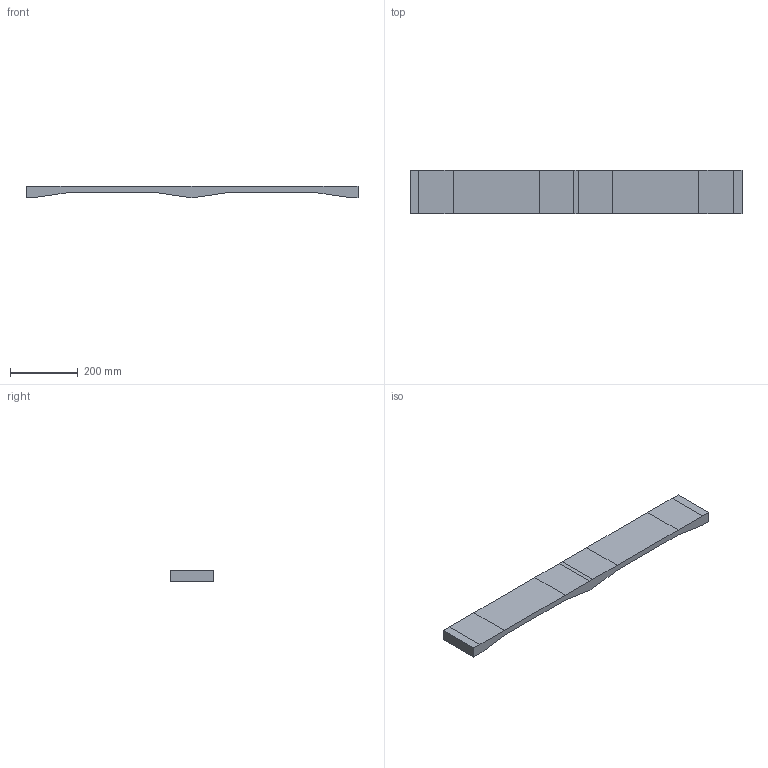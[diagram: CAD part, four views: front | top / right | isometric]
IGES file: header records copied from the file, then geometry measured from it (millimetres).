
Start section: /COM,ANSYS RELEASE 11.0    UP20070125       18:35:15    01/03/2009 /NOPR /PREP7 /TITLE, DOF,UX,UY,UZ, BFUNIF,TEMP,_TINY KUSE,0 TIME,0.00000000 TREF,0.00000000 ALPHAD,0.00000000 BETAD,0.00000000 DMPRAT,0.00000000 CRPLIM,0.100000000,0 CRPLIM,0.00000000,1 NCNV,1,0.00000000,0,0.00000000,0.00000000 NEQIT,0 ERESX,DEFA ACEL,0.00000000,0.00000000,0.00000000 OMEGA,0.00000000,0.00000000,0.00000000,0 DOMEGA,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
Global section: file name: Most.iges; native system: ANSYS; preprocessor:   11.0      UP20070125; date: 000103.183515
Bounding box: 977.9 x 127 x 33.02 mm (x, y, z)
Volume: 2724349.4 mm3; surface area: 300254.2 mm2
Topology: 1 solids, 1 shells, 25 faces, 70 edges, 48 vertices
Faces by surface type: bspline 25
